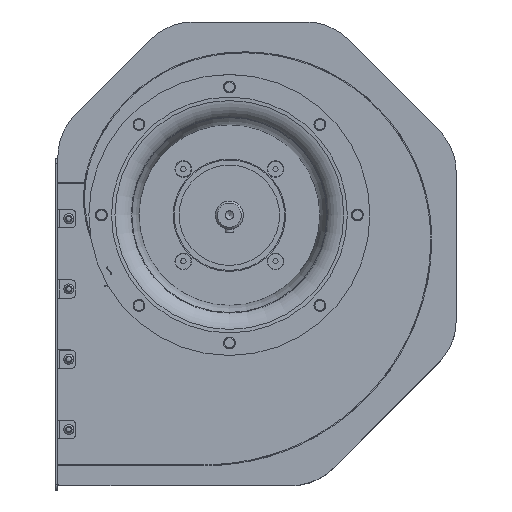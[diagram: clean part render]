
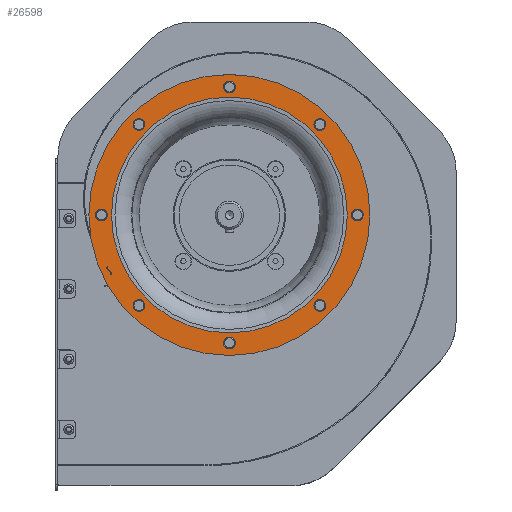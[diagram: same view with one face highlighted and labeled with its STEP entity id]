
A CAD part, top view. The second image highlights one B-rep face of the part: STEP entity #26598.
In plain terms, the highlighted planar face has unit normal (0, 0, 1).
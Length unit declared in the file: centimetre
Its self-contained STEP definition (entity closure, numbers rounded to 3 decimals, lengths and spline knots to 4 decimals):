
#4540=PLANE('',#28311);
#5965=FACE_BOUND('',#8194,.T.);
#5966=FACE_BOUND('',#8195,.T.);
#5967=FACE_BOUND('',#8196,.T.);
#5968=FACE_BOUND('',#8197,.T.);
#5969=FACE_BOUND('',#8198,.T.);
#5970=FACE_BOUND('',#8199,.T.);
#5971=FACE_BOUND('',#8200,.T.);
#5972=FACE_BOUND('',#8201,.T.);
#5973=FACE_BOUND('',#8202,.T.);
#6550=FACE_OUTER_BOUND('',#8193,.T.);
#8193=EDGE_LOOP('',(#17638));
#8194=EDGE_LOOP('',(#17639));
#8195=EDGE_LOOP('',(#17640));
#8196=EDGE_LOOP('',(#17641));
#8197=EDGE_LOOP('',(#17642));
#8198=EDGE_LOOP('',(#17643));
#8199=EDGE_LOOP('',(#17644));
#8200=EDGE_LOOP('',(#17645));
#8201=EDGE_LOOP('',(#17646));
#8202=EDGE_LOOP('',(#17647));
#10340=CIRCLE('',#28284,0.325);
#10342=CIRCLE('',#28287,0.325);
#10344=CIRCLE('',#28290,0.325);
#10346=CIRCLE('',#28293,0.325);
#10348=CIRCLE('',#28296,0.325);
#10350=CIRCLE('',#28299,0.325);
#10352=CIRCLE('',#28302,0.325);
#10354=CIRCLE('',#28305,0.325);
#10357=CIRCLE('',#28310,11.75);
#10358=CIRCLE('',#28312,14.);
#11515=VERTEX_POINT('',#38838);
#11517=VERTEX_POINT('',#38843);
#11519=VERTEX_POINT('',#38848);
#11521=VERTEX_POINT('',#38853);
#11523=VERTEX_POINT('',#38858);
#11525=VERTEX_POINT('',#38863);
#11527=VERTEX_POINT('',#38868);
#11529=VERTEX_POINT('',#38873);
#11532=VERTEX_POINT('',#38881);
#11533=VERTEX_POINT('',#38884);
#13984=EDGE_CURVE('',#11515,#11515,#10340,.T.);
#13986=EDGE_CURVE('',#11517,#11517,#10342,.T.);
#13988=EDGE_CURVE('',#11519,#11519,#10344,.T.);
#13990=EDGE_CURVE('',#11521,#11521,#10346,.T.);
#13992=EDGE_CURVE('',#11523,#11523,#10348,.T.);
#13994=EDGE_CURVE('',#11525,#11525,#10350,.T.);
#13996=EDGE_CURVE('',#11527,#11527,#10352,.T.);
#13998=EDGE_CURVE('',#11529,#11529,#10354,.T.);
#14001=EDGE_CURVE('',#11532,#11532,#10357,.T.);
#14002=EDGE_CURVE('',#11533,#11533,#10358,.T.);
#17638=ORIENTED_EDGE('',*,*,#14002,.F.);
#17639=ORIENTED_EDGE('',*,*,#13984,.T.);
#17640=ORIENTED_EDGE('',*,*,#13986,.T.);
#17641=ORIENTED_EDGE('',*,*,#13988,.T.);
#17642=ORIENTED_EDGE('',*,*,#13990,.T.);
#17643=ORIENTED_EDGE('',*,*,#13992,.T.);
#17644=ORIENTED_EDGE('',*,*,#13994,.T.);
#17645=ORIENTED_EDGE('',*,*,#13996,.T.);
#17646=ORIENTED_EDGE('',*,*,#13998,.T.);
#17647=ORIENTED_EDGE('',*,*,#14001,.T.);
#26598=ADVANCED_FACE('',(#6550,#5965,#5966,#5967,#5968,#5969,#5970,#5971,
#5972,#5973),#4540,.T.);
#28284=AXIS2_PLACEMENT_3D('',#38839,#31194,#31195);
#28287=AXIS2_PLACEMENT_3D('',#38844,#31200,#31201);
#28290=AXIS2_PLACEMENT_3D('',#38849,#31206,#31207);
#28293=AXIS2_PLACEMENT_3D('',#38854,#31212,#31213);
#28296=AXIS2_PLACEMENT_3D('',#38859,#31218,#31219);
#28299=AXIS2_PLACEMENT_3D('',#38864,#31224,#31225);
#28302=AXIS2_PLACEMENT_3D('',#38869,#31230,#31231);
#28305=AXIS2_PLACEMENT_3D('',#38874,#31236,#31237);
#28310=AXIS2_PLACEMENT_3D('',#38882,#31246,#31247);
#28311=AXIS2_PLACEMENT_3D('',#38883,#31248,#31249);
#28312=AXIS2_PLACEMENT_3D('',#38885,#31250,#31251);
#31194=DIRECTION('center_axis',(0.,0.,
-1.));
#31195=DIRECTION('ref_axis',(-1.,0.,0.));
#31200=DIRECTION('center_axis',(0.,0.,
-1.));
#31201=DIRECTION('ref_axis',(-1.,0.,0.));
#31206=DIRECTION('center_axis',(0.,0.,
-1.));
#31207=DIRECTION('ref_axis',(-1.,0.,0.));
#31212=DIRECTION('center_axis',(0.,0.,
-1.));
#31213=DIRECTION('ref_axis',(-1.,0.,0.));
#31218=DIRECTION('center_axis',(0.,0.,
-1.));
#31219=DIRECTION('ref_axis',(-1.,0.,0.));
#31224=DIRECTION('center_axis',(0.,0.,
-1.));
#31225=DIRECTION('ref_axis',(-1.,0.,0.));
#31230=DIRECTION('center_axis',(0.,0.,
-1.));
#31231=DIRECTION('ref_axis',(-1.,0.,0.));
#31236=DIRECTION('center_axis',(0.,0.,
-1.));
#31237=DIRECTION('ref_axis',(-1.,0.,0.));
#31246=DIRECTION('center_axis',(0.,0.,
-1.));
#31247=DIRECTION('ref_axis',(1.,0.,0.));
#31248=DIRECTION('center_axis',(0.,0.,
1.));
#31249=DIRECTION('ref_axis',(0.,1.,0.));
#31250=DIRECTION('center_axis',(0.,0.,
-1.));
#31251=DIRECTION('ref_axis',(1.,0.,0.));
#38838=CARTESIAN_POINT('',(-9.3406,-9.0156,14.52));
#38839=CARTESIAN_POINT('Origin',(-9.0156,-9.0156,14.52));
#38843=CARTESIAN_POINT('',(-13.075,0.,14.52));
#38844=CARTESIAN_POINT('Origin',(-12.75,0.,
14.52));
#38848=CARTESIAN_POINT('',(-9.3406,9.0156,14.52));
#38849=CARTESIAN_POINT('Origin',(-9.0156,9.0156,14.52));
#38853=CARTESIAN_POINT('',(-0.325,12.75,14.52));
#38854=CARTESIAN_POINT('Origin',(0.,12.75,
14.52));
#38858=CARTESIAN_POINT('',(8.6906,9.0156,14.52));
#38859=CARTESIAN_POINT('Origin',(9.0156,9.0156,14.52));
#38863=CARTESIAN_POINT('',(12.425,0.,14.52));
#38864=CARTESIAN_POINT('Origin',(12.75,0.,
14.52));
#38868=CARTESIAN_POINT('',(8.6906,-9.0156,14.52));
#38869=CARTESIAN_POINT('Origin',(9.0156,-9.0156,14.52));
#38873=CARTESIAN_POINT('',(-0.325,-12.75,14.52));
#38874=CARTESIAN_POINT('Origin',(0.,-12.75,
14.52));
#38881=CARTESIAN_POINT('',(11.75,0.,14.52));
#38882=CARTESIAN_POINT('Origin',(0.,0.,
14.52));
#38883=CARTESIAN_POINT('Origin',(12.875,0.,
14.52));
#38884=CARTESIAN_POINT('',(14.,0.,14.52));
#38885=CARTESIAN_POINT('Origin',(0.,0.,
14.52));
